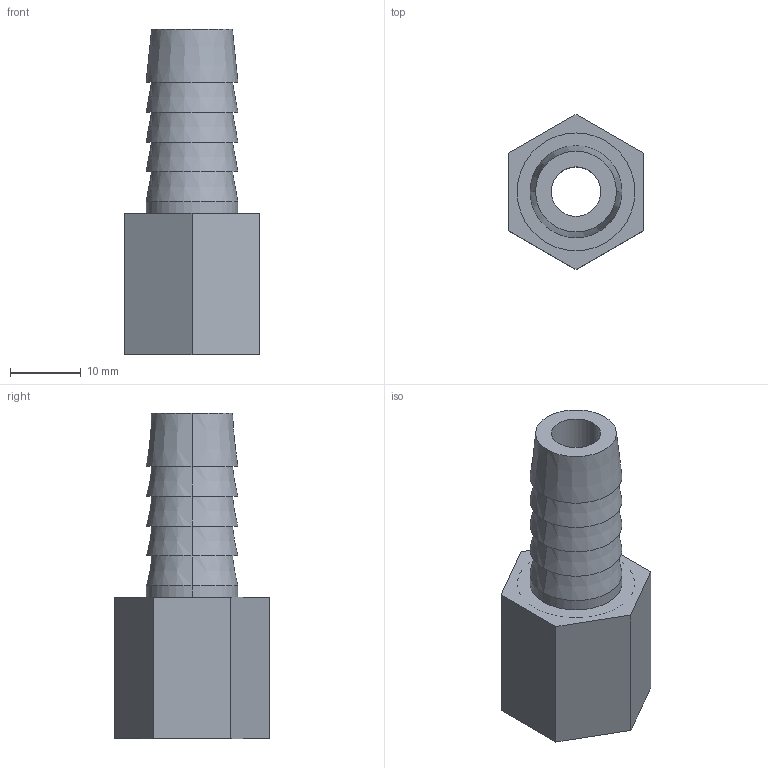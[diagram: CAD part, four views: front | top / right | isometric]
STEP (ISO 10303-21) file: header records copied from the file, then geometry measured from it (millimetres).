
FILE_DESCRIPTION (( 'STEP AP214' ), '1' );
FILE_NAME ('BR875-3-8-GAS.STEP', '2020-06-23T09:59:37', ( '' ), ( '' ), 'SwSTEP 2.0', 'SolidWorks 2018', '' );
FILE_SCHEMA (( 'AUTOMOTIVE_DESIGN' ));
Length unit declared in the file: millimetre
Products named in the file (1): BR875-3-8-GAS
Bounding box: 19 x 21.94 x 46 mm (x, y, z)
Volume: 3978.1 mm3; surface area: 4586.6 mm2
Topology: 2 solids, 2 shells, 33 faces, 70 edges, 46 vertices
Faces by surface type: plane 15, cone 10, cylinder 8
Entity records: 953 total; most frequent: DIRECTION 172, CARTESIAN_POINT 150, ORIENTED_EDGE 140, EDGE_CURVE 70, AXIS2_PLACEMENT_3D 68, VERTEX_POINT 46, EDGE_LOOP 42, VECTOR 36
